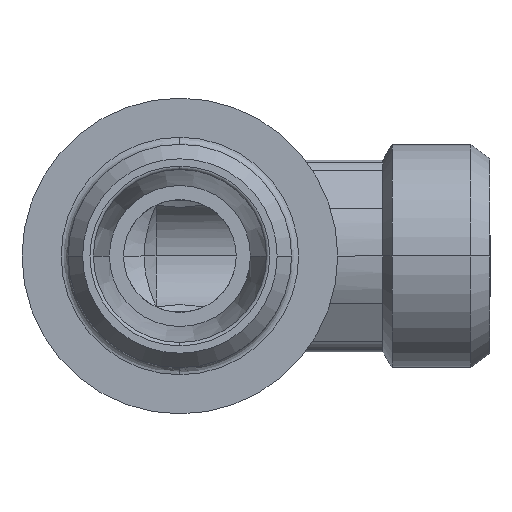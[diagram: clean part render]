
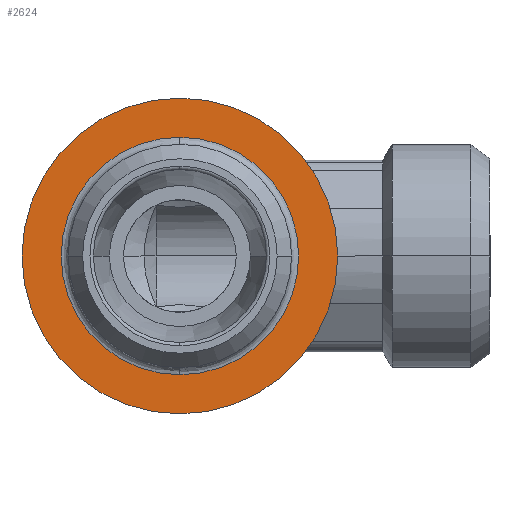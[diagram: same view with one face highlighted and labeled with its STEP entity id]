
A CAD part, front view. The second image highlights one B-rep face of the part: STEP entity #2624.
In plain terms, the highlighted planar face has unit normal (0, -1, 0) as drawn and (1, 0, 0) by its records, which use the part's own axes.
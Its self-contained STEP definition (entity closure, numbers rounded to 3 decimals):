
#910=CARTESIAN_POINT('',(13.5,0.,11.2));
#911=VERTEX_POINT('',#910);
#927=CARTESIAN_POINT('',(13.5,0.,-11.2));
#928=VERTEX_POINT('',#927);
#935=CARTESIAN_POINT('',(13.5,0.,0.));
#936=DIRECTION('',(-1.0,0.0,0.0));
#937=DIRECTION('',(0.0,0.0,1.0));
#938=AXIS2_PLACEMENT_3D('',#935,#936,#937);
#939=CIRCLE('',#938,11.2);
#940=EDGE_CURVE('',#928,#911,#939,.T.);
#1078=CARTESIAN_POINT('',(13.5,8.425,0.));
#1079=VERTEX_POINT('',#1078);
#1105=CARTESIAN_POINT('',(13.5,-8.425,0.));
#1106=VERTEX_POINT('',#1105);
#1114=CARTESIAN_POINT('',(13.5,0.,0.));
#1115=DIRECTION('',(1.0,0.0,0.0));
#1116=DIRECTION('',(0.0,0.0,1.0));
#1117=AXIS2_PLACEMENT_3D('',#1114,#1115,#1116);
#1118=CIRCLE('',#1117,8.425);
#1119=EDGE_CURVE('',#1106,#1079,#1118,.T.);
#2550=CARTESIAN_POINT('',(13.5,0.,8.425));
#2551=VERTEX_POINT('',#2550);
#2552=CARTESIAN_POINT('',(13.5,0.,0.));
#2553=DIRECTION('',(1.0,0.0,0.0));
#2554=DIRECTION('',(0.0,0.0,1.0));
#2555=AXIS2_PLACEMENT_3D('',#2552,#2553,#2554);
#2556=CIRCLE('',#2555,8.425);
#2557=EDGE_CURVE('',#1079,#2551,#2556,.T.);
#2559=CARTESIAN_POINT('',(13.5,0.,0.));
#2560=DIRECTION('',(1.0,0.0,0.0));
#2561=DIRECTION('',(0.0,0.0,1.0));
#2562=AXIS2_PLACEMENT_3D('',#2559,#2560,#2561);
#2563=CIRCLE('',#2562,8.425);
#2564=EDGE_CURVE('',#2551,#1106,#2563,.T.);
#2604=CARTESIAN_POINT('',(13.5,0.,1.018));
#2605=DIRECTION('',(1.0,0.0,0.0));
#2606=DIRECTION('',(0.0,0.0,-1.0));
#2607=AXIS2_PLACEMENT_3D('',#2604,#2605,#2606);
#2608=PLANE('',#2607);
#2609=CARTESIAN_POINT('',(13.5,0.,0.));
#2610=DIRECTION('',(-1.0,0.0,0.0));
#2611=DIRECTION('',(0.0,0.0,1.0));
#2612=AXIS2_PLACEMENT_3D('',#2609,#2610,#2611);
#2613=CIRCLE('',#2612,11.2);
#2614=EDGE_CURVE('',#911,#928,#2613,.T.);
#2615=ORIENTED_EDGE('',*,*,#2614,.F.);
#2616=ORIENTED_EDGE('',*,*,#940,.F.);
#2617=EDGE_LOOP('',(#2615,#2616));
#2618=FACE_OUTER_BOUND('',#2617,.T.);
#2619=ORIENTED_EDGE('',*,*,#2564,.F.);
#2620=ORIENTED_EDGE('',*,*,#2557,.F.);
#2621=ORIENTED_EDGE('',*,*,#1119,.F.);
#2622=EDGE_LOOP('',(#2619,#2620,#2621));
#2623=FACE_BOUND('',#2622,.T.);
#2624=ADVANCED_FACE('',(#2618,#2623),#2608,.T.);
